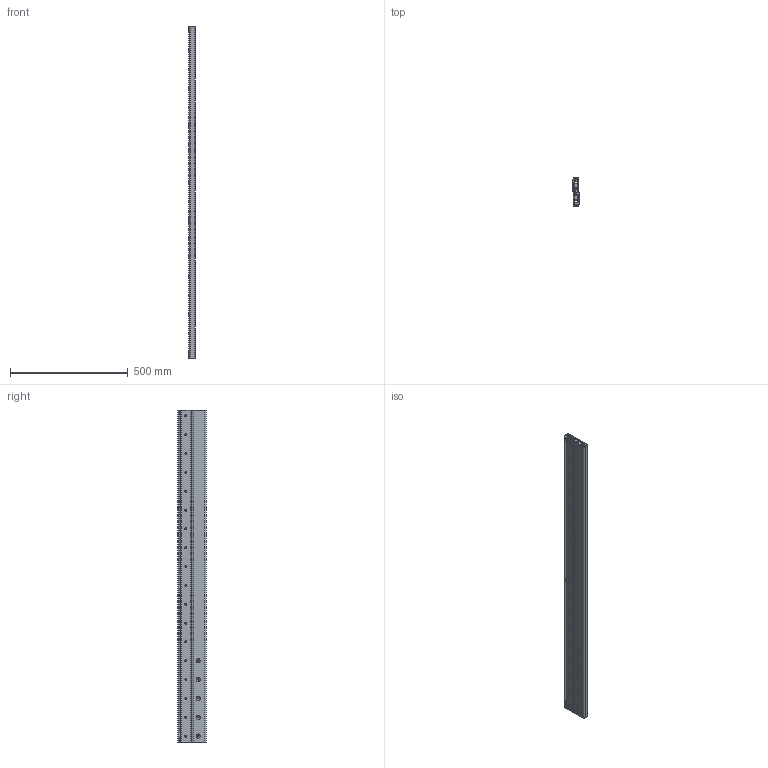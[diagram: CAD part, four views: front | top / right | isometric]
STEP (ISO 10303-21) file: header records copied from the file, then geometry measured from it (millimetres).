
FILE_DESCRIPTION(('STEP AP214'),'1');
FILE_NAME('rail_dss43-1410_00.stp','2017-04-17T03:59:49',('TraceParts'),('TraceParts S.A.'),'Spatial InterOp 3D',' ',' ');
FILE_SCHEMA(('automotive_design'));
Length unit declared in the file: millimetre
Products named in the file (3): rail_dss43-1410_00_1; rail_dss43-1410_00_2; rail_dss43-1410_00_3
Bounding box: 28 x 120 x 1410 mm (x, y, z)
Volume: 2496621.4 mm3; surface area: 1006051.4 mm2
Topology: 3 solids, 3 shells, 354 faces, 942 edges, 604 vertices
Faces by surface type: cylinder 144, plane 138, cone 72
Entity records: 11275 total; most frequent: DIRECTION 2032, CARTESIAN_POINT 1903, ORIENTED_EDGE 1884, EDGE_CURVE 942, AXIS2_PLACEMENT_3D 733, VERTEX_POINT 604, LINE 566, VECTOR 566
